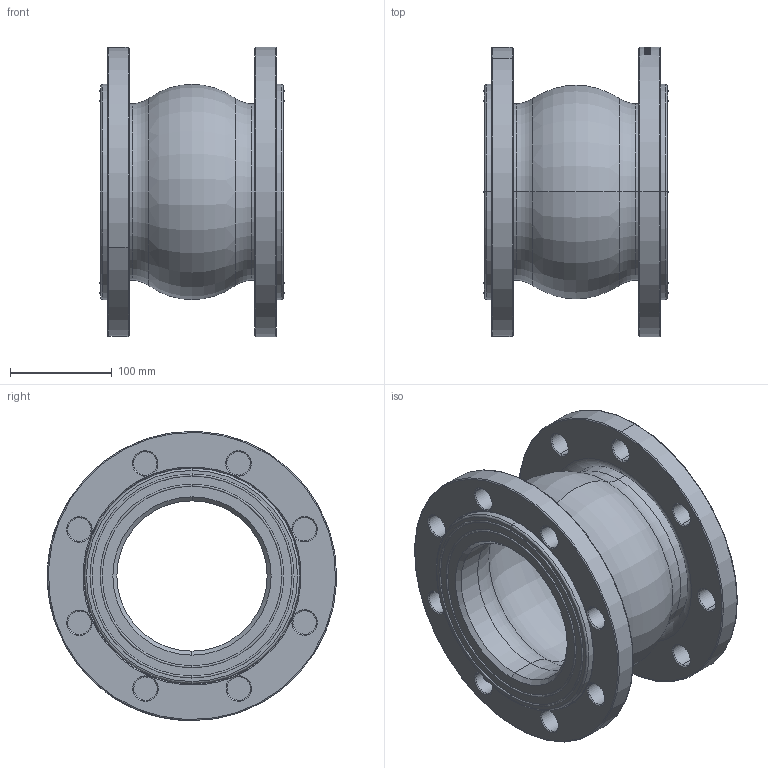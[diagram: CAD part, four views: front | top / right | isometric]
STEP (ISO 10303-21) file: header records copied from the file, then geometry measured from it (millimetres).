
FILE_DESCRIPTION (( 'STEP AP203' ), '1' );
FILE_NAME ('DN150 PN16.STEP', '2026-07-16T06:18:54', ( 'Windows 蚚誧' ), ( '' ), 'SwSTEP 2.0', 'SolidWorks 2018', '' );
FILE_SCHEMA (( 'CONFIG_CONTROL_DESIGN' ));
Length unit declared in the file: millimetre
Products named in the file (3): DN150; DN150 PN16
Assembly tree (3 placements, depth 2):
  DN150 PN16
    DN150
    DN150 PN16  x2
Bounding box: 181.99 x 285 x 285 mm (x, y, z)
Volume: 2826916.7 mm3; surface area: 520493.1 mm2
Topology: 3 solids, 3 shells, 628 faces, 1594 edges, 1012 vertices
Faces by surface type: plane 200, bspline 190, cylinder 106, cone 72, torus 60
Entity records: 13354 total; most frequent: CARTESIAN_POINT 5224, ORIENTED_EDGE 1722, DIRECTION 1463, EDGE_CURVE 861, AXIS2_PLACEMENT_3D 563, VERTEX_POINT 542, EDGE_LOOP 389, ADVANCED_FACE 346
